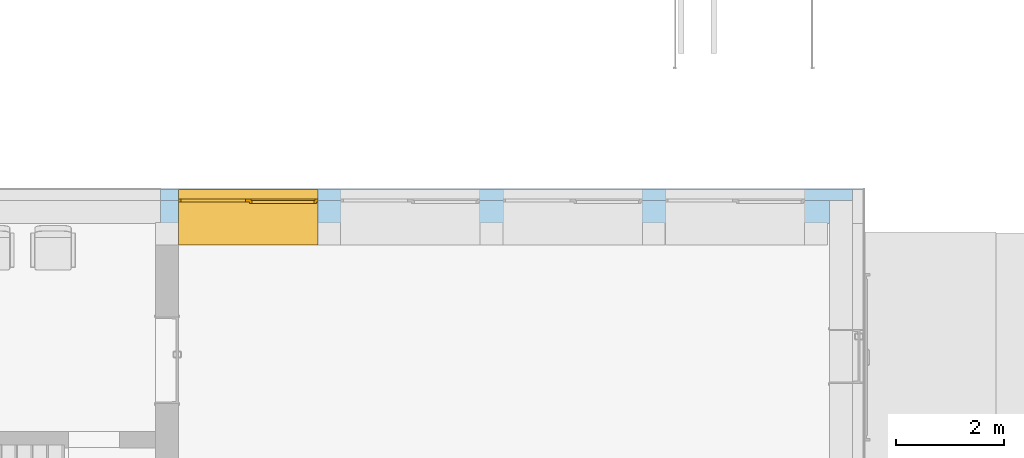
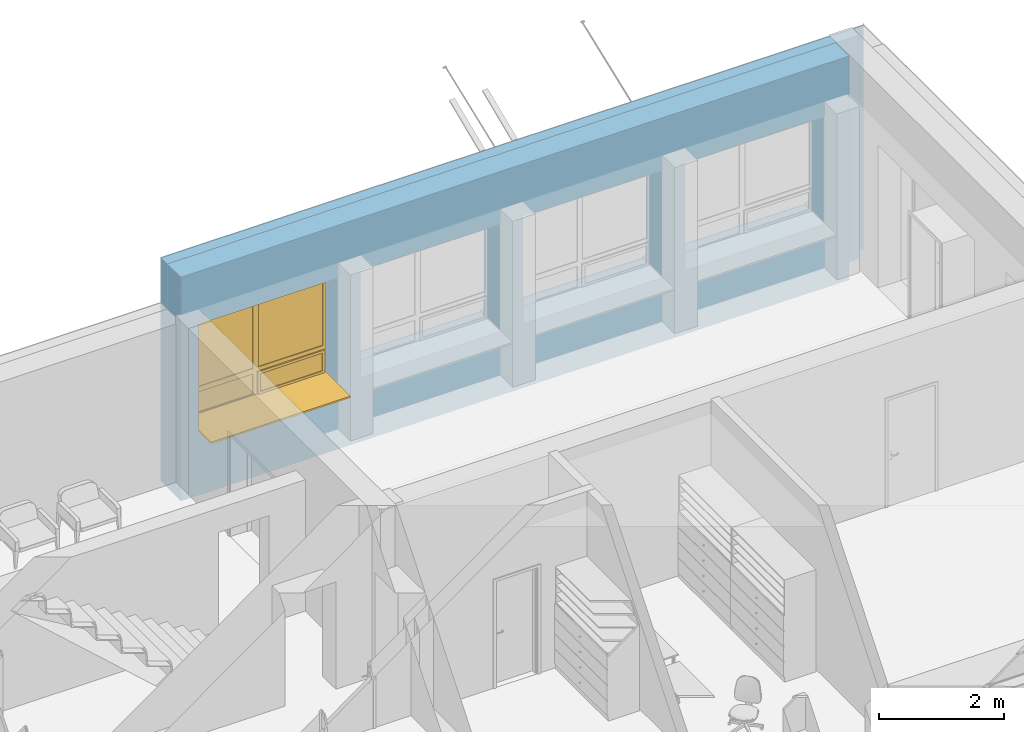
# One storey, part 102 of 194: 1 window, 4 openings, 1 element without a shape of its own, plus 3 elements that do not belong to this part.
"""IFC2X3 building model written with IfcOpenShell, lengths in millimetres."""

from ifc_helpers import new_model, entity, si_unit, converted_unit, derived_unit, money_unit, direction, frame, origin_with_axes, origin_2d_with_axis, place, context, subcontext, project, spatial, polyline, rectangle, outline, extrude, boolean, open_shell, faceted_brep, surface_model, material, type_object, element, fill, aggregate, save


model = new_model("IFC2X3")

# Units and contexts
model_context = context("Model", 3, precision=1e-05, world=origin_with_axes(), true_north=direction((0.0, 1.0)))
body_context = subcontext(model_context, "Body", "Model", "MODEL_VIEW")
ifc_project = project(units=[si_unit("LENGTHUNIT", "METRE", prefix="MILLI"), si_unit("AREAUNIT", "SQUARE_METRE"), si_unit("VOLUMEUNIT", "CUBIC_METRE"), converted_unit("PLANEANGLEUNIT", "DEGREE", entity("IfcPlaneAngleMeasure", 0.0174532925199), si_unit("PLANEANGLEUNIT", "RADIAN"), dimensions=[0, 0, 0, 0, 0, 0, 0]), si_unit("SOLIDANGLEUNIT", "STERADIAN"), money_unit("EUR"), converted_unit("TIMEUNIT", "Year", entity("IfcTimeMeasure", 31556926.0), si_unit("TIMEUNIT", "SECOND"), dimensions=[0, 0, 1, 0, 0, 0, 0]), si_unit("MASSUNIT", "GRAM", prefix="KILO"), si_unit("THERMODYNAMICTEMPERATUREUNIT", "DEGREE_CELSIUS"), si_unit("LUMINOUSINTENSITYUNIT", "LUMEN"), si_unit("ENERGYUNIT", "JOULE", prefix="MEGA"), derived_unit("THERMALCONDUCTANCEUNIT", [(si_unit("POWERUNIT", "WATT"), 1), (si_unit("LENGTHUNIT", "METRE"), -1), (si_unit("THERMODYNAMICTEMPERATUREUNIT", "KELVIN"), -1)]), derived_unit("SPECIFICHEATCAPACITYUNIT", [(si_unit("ENERGYUNIT", "JOULE"), 1), (si_unit("MASSUNIT", "GRAM", prefix="KILO"), -1), (si_unit("THERMODYNAMICTEMPERATUREUNIT", "KELVIN"), -1)]), derived_unit("MASSDENSITYUNIT", [(si_unit("MASSUNIT", "GRAM", prefix="KILO"), 1), (si_unit("VOLUMEUNIT", "CUBIC_METRE"), -1)])], contexts=[model_context])

# Site, building, storey
site_placement = place(None, origin_with_axes())
site = spatial("IfcSite", under=ifc_project, at=site_placement, Name="Site", CompositionType="ELEMENT")
building_placement = place(site_placement, origin_with_axes())
building = spatial("IfcBuilding", under=site, at=building_placement, Name="Building", CompositionType="ELEMENT")
storey_placement = place(building_placement, frame((0.0, 0.0, 3000.0), z_axis=(0.0, 0.0, 1.0), x_axis=(1.0, 0.0, 0.0)))
storey = spatial("IfcBuildingStorey", under=building, at=storey_placement, Name="2 KORRUS", CompositionType="ELEMENT", Elevation=3000.0)

# Window
window_style = type_object("IfcWindowStyle", Name="A2   2\xa0580×2\xa0100", ConstructionType="NOTDEFINED", OperationType="USERDEFINED", ParameterTakesPrecedence=False, Sizeable=False)
wall_placement = place(storey_placement, frame((87829.1670684, 47302.325893, -400.0), z_axis=(0.0, 0.0, 1.0), x_axis=(1.0, 0.0, 0.0)))
opening_4_placement = place(wall_placement, frame((1618.73994525, 0.0, 1250.0), z_axis=(0.0, 0.0, 1.0), x_axis=(1.0, 0.0, 0.0)))
window_placement = place(opening_4_placement, frame((1290.0, 0.0, 0.0), z_axis=(0.0, 0.0, 1.0), x_axis=(-1.0, 0.0, 0.0)))
window = element("IfcWindow", 1, at=window_placement, inside=storey, type_object=window_style, Name="välisaken * Double Window 22", OverallHeight=2100.0, OverallWidth=2580.0, context=body_context, shape_type="SurfaceModel", body=[
    faceted_brep([(2580.0, -219.999999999, 5.0), (2580.0, -19.9999999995, 5.0), (2580.0, -19.9999999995, 30.0), (2580.0, -219.999999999, 19.5184441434), (0.0, -19.9999999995, 5.0), (0.0, -219.999999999, 5.0), (0.0, -19.9999999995, 30.0), (0.0, -219.999999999, 19.5184441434)], [[[0, 1, 2, 3]], [[4, 1, 0, 5]], [[1, 4, 6, 2]], [[3, 2, 6, 7]], [[5, 0, 3, 7]], [[4, 5, 7, 6]]]),
    faceted_brep([(2580.0, -19.9999999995, 0.0), (2580.0, -19.9999999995, 5.0), (2580.0, -219.999999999, 5.0), (2580.0, -219.999999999, 0.0), (0.0, -19.9999999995, 0.0), (0.0, -19.9999999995, 5.0), (0.0, -219.999999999, 5.0), (0.0, -219.999999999, 0.0)], [[[0, 1, 2, 3]], [[4, 5, 1, 0]], [[1, 5, 6, 2]], [[3, 2, 6, 7]], [[0, 3, 7, 4]], [[7, 6, 5, 4]]]),
    faceted_brep([(0.0, 30.0000000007, 0.0), (0.0, 30.0000000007, 30.0), (0.0, 430.0, 30.0), (0.0, 430.0, 0.0), (2580.0, 30.0000000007, 0.0), (2580.0, 30.0000000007, 30.0), (2580.0, 430.0, 30.0), (2580.0, 830.000000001, 30.0), (0.0, 830.000000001, 30.0), (0.0, 830.000000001, 0.0), (2580.0, 830.000000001, 0.0), (2580.0, 430.0, 0.0)], [[[0, 1, 2, 3]], [[4, 5, 1, 0]], [[1, 5, 6, 7, 8, 2]], [[3, 2, 8, 9]], [[0, 3, 9, 10, 11, 4]], [[11, 6, 5, 4]], [[10, 7, 6, 11]], [[9, 8, 7, 10]]]),
    faceted_brep([(25.0, 30.0000000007, 475.0), (25.0, 30.0000000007, 50.0), (0.0, 30.0000000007, 50.0), (0.0, 30.0000000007, 2050.0), (50.0, 30.0000000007, 2050.0), (50.0, 30.0000000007, 550.0), (50.0, 30.0000000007, 475.0), (25.0, 5.00000000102, 475.0), (25.0, 5.00000000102, 50.0), (50.0, 5.00000000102, 50.0), (50.0, -19.9999999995, 50.0), (0.0, -19.9999999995, 50.0), (0.0, -19.9999999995, 2050.0), (50.0, -19.9999999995, 2050.0), (50.0, -19.9999999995, 550.0), (50.0, 5.00000000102, 475.0), (50.0, -19.9999999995, 450.0), (50.0, 5.00000000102, 450.0)], [[[0, 1, 2, 3, 4, 5, 6]], [[1, 0, 7, 8]], [[8, 9, 10, 11, 2, 1]], [[2, 11, 12, 3]], [[3, 12, 13, 4]], [[4, 13, 14, 5]], [[15, 6, 5, 14, 16, 17]], [[0, 6, 15, 7]], [[9, 8, 7, 15, 17]], [[9, 17, 16, 10]], [[11, 10, 16, 14, 13, 12]]]),
    faceted_brep([(1265.0, 30.0000000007, 50.0), (1265.0, 30.0000000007, 475.0), (1240.0, 30.0000000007, 475.0), (1240.0, 30.0000000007, 550.0), (1240.0, 30.0000000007, 2050.0), (1340.0, 30.0000000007, 2050.0), (1340.0, 30.0000000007, 550.0), (1340.0, 30.0000000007, 450.0), (1340.0, 30.0000000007, 50.0), (1265.0, 5.00000000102, 50.0), (1265.0, 5.00000000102, 475.0), (1240.0, 5.00000000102, 475.0), (1240.0, 5.00000000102, 450.0), (1240.0, -19.9999999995, 450.0), (1240.0, -19.9999999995, 550.0), (1240.0, -19.9999999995, 2050.0), (1340.0, -19.9999999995, 2050.0), (1340.0, -19.9999999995, 550.0), (1340.0, -19.9999999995, 450.0), (1340.0, -19.9999999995, 50.0), (1240.0, -19.9999999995, 50.0), (1240.0, 5.00000000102, 50.0)], [[[0, 1, 2, 3, 4, 5, 6, 7, 8]], [[1, 0, 9, 10]], [[11, 2, 1, 10]], [[11, 12, 13, 14, 3, 2]], [[3, 14, 15, 4]], [[4, 15, 16, 5]], [[5, 16, 17, 6]], [[6, 17, 18, 7]], [[7, 18, 19, 8]], [[9, 0, 8, 19, 20, 21]], [[12, 11, 10, 9, 21]], [[12, 21, 20, 13]], [[18, 17, 16, 15, 14, 13, 20, 19]]]),
    faceted_brep([(1240.0, 30.0000000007, 475.0), (50.0, 30.0000000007, 475.0), (50.0, 30.0000000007, 550.0), (1240.0, 30.0000000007, 550.0), (50.0, 5.00000000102, 475.0), (1240.0, 5.00000000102, 475.0), (50.0, 5.00000000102, 450.0), (50.0, -19.9999999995, 450.0), (50.0, -19.9999999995, 550.0), (1240.0, -19.9999999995, 550.0), (1240.0, -19.9999999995, 450.0), (1240.0, 5.00000000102, 450.0)], [[[0, 1, 2, 3]], [[4, 1, 0, 5]], [[4, 6, 7, 8, 2, 1]], [[2, 8, 9, 3]], [[5, 0, 3, 9, 10, 11]], [[6, 4, 5, 11]], [[6, 11, 10, 7]], [[10, 9, 8, 7]]]),
    faceted_brep([(50.0, 5.00000000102, 50.0), (25.0, 5.00000000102, 50.0), (25.0, 30.0000000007, 50.0), (0.0, 30.0000000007, 50.0), (0.0, -19.9999999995, 50.0), (50.0, -19.9999999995, 50.0), (1240.0, 5.00000000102, 50.0), (1265.0, 5.00000000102, 50.0), (1265.0, 5.00000000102, 25.0), (25.0, 5.00000000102, 25.0), (25.0, 30.0000000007, 25.0), (1265.0, 30.0000000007, 25.0), (1265.0, 30.0000000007, 50.0), (1340.0, 30.0000000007, 50.0), (2530.0, 30.0000000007, 50.0), (2580.0, 30.0000000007, 50.0), (2580.0, 30.0000000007, 0.0), (0.0, 30.0000000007, 0.0), (0.0, -19.9999999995, 0.0), (2580.0, -19.9999999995, 50.0), (2530.0, -19.9999999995, 50.0), (1340.0, -19.9999999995, 50.0), (1240.0, -19.9999999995, 50.0), (2580.0, -19.9999999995, 0.0)], [[[0, 1, 2, 3, 4, 5]], [[1, 0, 6, 7, 8, 9]], [[10, 2, 1, 9]], [[11, 12, 13, 14, 15, 16, 17, 3, 2, 10]], [[17, 18, 4, 3]], [[19, 20, 21, 22, 5, 4, 18, 23]], [[6, 0, 5, 22]], [[7, 6, 22, 21, 13, 12]], [[7, 12, 11, 8]], [[11, 10, 9, 8]], [[13, 21, 20, 14]], [[14, 20, 19, 15]], [[15, 19, 23, 16]], [[16, 23, 18, 17]]]),
    faceted_brep([(2530.0, -19.9999999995, 450.0), (2530.0, -19.9999999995, 550.0), (2530.0, 30.0000000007, 550.0), (2530.0, 30.0000000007, 450.0), (2530.0, -19.9999999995, 50.0), (2580.0, -19.9999999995, 50.0), (2580.0, -19.9999999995, 2050.0), (2530.0, -19.9999999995, 2050.0), (2530.0, 30.0000000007, 2050.0), (2580.0, 30.0000000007, 2050.0), (2580.0, 30.0000000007, 50.0), (2530.0, 30.0000000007, 50.0)], [[[0, 1, 2, 3]], [[0, 4, 5, 6, 7, 1]], [[1, 7, 8, 2]], [[3, 2, 8, 9, 10, 11]], [[4, 0, 3, 11]], [[5, 4, 11, 10]], [[6, 5, 10, 9]], [[7, 6, 9, 8]]]),
    faceted_brep([(1340.0, -19.9999999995, 450.0), (1340.0, -19.9999999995, 550.0), (1340.0, 30.0000000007, 550.0), (1340.0, 30.0000000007, 450.0), (2530.0, -19.9999999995, 450.0), (2530.0, -19.9999999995, 550.0), (2530.0, 30.0000000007, 550.0), (2530.0, 30.0000000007, 450.0)], [[[0, 1, 2, 3]], [[0, 4, 5, 1]], [[1, 5, 6, 2]], [[3, 2, 6, 7]], [[4, 0, 3, 7]], [[5, 4, 7, 6]]]),
    faceted_brep([(1340.0, -19.9999999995, 2050.0), (1240.0, -19.9999999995, 2050.0), (1240.0, 30.0000000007, 2050.0), (1340.0, 30.0000000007, 2050.0), (2530.0, -19.9999999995, 2050.0), (2580.0, -19.9999999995, 2050.0), (2580.0, -19.9999999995, 2100.0), (0.0, -19.9999999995, 2100.0), (0.0, -19.9999999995, 2050.0), (50.0, -19.9999999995, 2050.0), (50.0, 30.0000000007, 2050.0), (0.0, 30.0000000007, 2050.0), (0.0, 30.0000000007, 2100.0), (2580.0, 30.0000000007, 2100.0), (2580.0, 30.0000000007, 2050.0), (2530.0, 30.0000000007, 2050.0)], [[[0, 1, 2, 3]], [[0, 4, 5, 6, 7, 8, 9, 1]], [[1, 9, 10, 2]], [[3, 2, 10, 11, 12, 13, 14, 15]], [[4, 0, 3, 15]], [[5, 4, 15, 14]], [[6, 5, 14, 13]], [[7, 6, 13, 12]], [[8, 7, 12, 11]], [[9, 8, 11, 10]]]),
    surface_model("IfcShellBasedSurfaceModel", [(2530.0, -4.9999999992, 550.0), (2530.0, -4.9999999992, 2050.0), (1340.0, -4.9999999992, 2050.0), (1340.0, -4.9999999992, 550.0)], [open_shell([[[0, 1, 2, 3]]])]),
    surface_model("IfcShellBasedSurfaceModel", [(2530.0, 15.0000000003, 550.0), (1340.0, 15.0000000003, 550.0), (1340.0, 15.0000000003, 2050.0), (2530.0, 15.0000000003, 2050.0)], [open_shell([[[0, 1, 2, 3]]])]),
    surface_model("IfcShellBasedSurfaceModel", [(1240.0, -4.9999999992, 550.0), (1240.0, -4.9999999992, 2050.0), (50.0, -4.9999999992, 2050.0), (50.0, -4.9999999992, 550.0)], [open_shell([[[0, 1, 2, 3]]])]),
    surface_model("IfcShellBasedSurfaceModel", [(1240.0, 15.0000000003, 550.0), (50.0, 15.0000000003, 550.0), (50.0, 15.0000000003, 2050.0), (1240.0, 15.0000000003, 2050.0)], [open_shell([[[0, 1, 2, 3]]])]),
    surface_model("IfcShellBasedSurfaceModel", [(2530.0, -4.9999999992, 50.0), (2530.0, -4.9999999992, 450.0), (1340.0, -4.9999999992, 450.0), (1340.0, -4.9999999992, 50.0)], [open_shell([[[0, 1, 2, 3]]])]),
    surface_model("IfcShellBasedSurfaceModel", [(2530.0, 15.0000000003, 50.0), (1340.0, 15.0000000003, 50.0), (1340.0, 15.0000000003, 450.0), (2530.0, 15.0000000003, 450.0)], [open_shell([[[0, 1, 2, 3]]])]),
    faceted_brep([(1215.0, 5.00000000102, 425.0), (1265.0, 5.00000000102, 425.0), (1265.0, 55.0000000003, 425.0), (1215.0, 55.0000000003, 425.0), (1215.0, 5.00000000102, 75.0), (1265.0, 5.00000000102, 75.0), (1265.0, 55.0000000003, 75.0), (1215.0, 55.0000000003, 75.0)], [[[0, 1, 2, 3]], [[0, 4, 5, 1]], [[1, 5, 6, 2]], [[3, 2, 6, 7]], [[4, 0, 3, 7]], [[5, 4, 7, 6]]]),
    faceted_brep([(74.9999999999, 5.00000000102, 75.0), (25.0, 5.00000000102, 75.0), (25.0, 55.0000000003, 75.0), (74.9999999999, 55.0000000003, 75.0), (74.9999999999, 5.00000000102, 425.0), (25.0, 5.00000000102, 425.0), (25.0, 55.0000000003, 425.0), (74.9999999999, 55.0000000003, 425.0)], [[[0, 1, 2, 3]], [[0, 4, 5, 1]], [[1, 5, 6, 2]], [[3, 2, 6, 7]], [[4, 0, 3, 7]], [[5, 4, 7, 6]]]),
    faceted_brep([(25.0, 5.00000000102, 25.0), (25.0, 5.00000000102, 75.0), (25.0, 55.0000000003, 75.0), (25.0, 55.0000000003, 25.0), (1265.0, 5.00000000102, 25.0), (1265.0, 5.00000000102, 75.0), (1215.0, 5.00000000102, 75.0), (74.9999999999, 5.00000000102, 75.0), (74.9999999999, 55.0000000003, 75.0), (1215.0, 55.0000000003, 75.0), (1265.0, 55.0000000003, 75.0), (1265.0, 55.0000000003, 25.0)], [[[0, 1, 2, 3]], [[0, 4, 5, 6, 7, 1]], [[1, 7, 8, 2]], [[3, 2, 8, 9, 10, 11]], [[4, 0, 3, 11]], [[5, 4, 11, 10]], [[6, 5, 10, 9]], [[7, 6, 9, 8]]]),
    faceted_brep([(1265.0, 5.00000000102, 475.0), (1265.0, 5.00000000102, 425.0), (1265.0, 55.0000000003, 425.0), (1265.0, 55.0000000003, 475.0), (25.0, 5.00000000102, 475.0), (25.0, 5.00000000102, 425.0), (74.9999999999, 5.00000000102, 425.0), (1215.0, 5.00000000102, 425.0), (1215.0, 55.0000000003, 425.0), (74.9999999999, 55.0000000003, 425.0), (25.0, 55.0000000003, 425.0), (25.0, 55.0000000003, 475.0)], [[[0, 1, 2, 3]], [[0, 4, 5, 6, 7, 1]], [[1, 7, 8, 2]], [[3, 2, 8, 9, 10, 11]], [[4, 0, 3, 11]], [[5, 4, 11, 10]], [[6, 5, 10, 9]], [[7, 6, 9, 8]]]),
    surface_model("IfcShellBasedSurfaceModel", [(1215.0, 20.0000000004, 75.0), (1215.0, 20.0000000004, 425.0), (74.9999999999, 20.0000000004, 425.0), (74.9999999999, 20.0000000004, 75.0)], [open_shell([[[0, 1, 2, 3]]])]),
    surface_model("IfcShellBasedSurfaceModel", [(1215.0, 40.0000000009, 75.0), (74.9999999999, 40.0000000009, 75.0), (74.9999999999, 40.0000000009, 425.0), (1215.0, 40.0000000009, 425.0)], [open_shell([[[0, 1, 2, 3]]])]),
])

# Wall, openings
wall_type = type_object("IfcWallType", Name="VS4", PredefinedType="NOTDEFINED")
wall = element("IfcWall", 2, at=wall_placement, inside=storey, type_object=wall_type, Name="VS4")
opening_1_placement = place(wall_placement, frame((4618.18571631, 0.0, 1250.0), z_axis=(0.0, 0.0, 1.0), x_axis=(1.0, 0.0, 0.0)))
element("IfcOpeningElement", 3, at=opening_1_placement, cuts=wall, Name="välisaken * Double Window 22", context=body_context, shape_type="SweptSolid", body=[
    extrude(rectangle(XDim=2580.0, YDim=2100.0, at=origin_2d_with_axis()), frame((0.0, 19.9999999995, 1050.0), z_axis=(0.0, -1.0, 0.0), x_axis=(1.0, 0.0, 0.0)), (0.0, 0.0, 1.0), 1100.0),
    extrude(rectangle(XDim=2580.0, YDim=2100.0, at=origin_2d_with_axis()), frame((0.0, 19.9999999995, 1050.0), z_axis=(0.0, 1.0, 0.0), x_axis=(1.0, 0.0, 0.0)), (0.0, 0.0, 1.0), 850.0),
])
opening_2_placement = place(wall_placement, frame((7618.18571631, 0.0, 1250.0), z_axis=(0.0, 0.0, 1.0), x_axis=(1.0, 0.0, 0.0)))
element("IfcOpeningElement", 4, at=opening_2_placement, cuts=wall, Name="välisaken * Double Window 22", context=body_context, shape_type="SweptSolid", body=[
    extrude(rectangle(XDim=2580.0, YDim=2100.0, at=origin_2d_with_axis()), frame((0.0, 19.9999999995, 1050.0), z_axis=(0.0, -1.0, 0.0), x_axis=(1.0, 0.0, 0.0)), (0.0, 0.0, 1.0), 1100.0),
    extrude(rectangle(XDim=2580.0, YDim=2100.0, at=origin_2d_with_axis()), frame((0.0, 19.9999999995, 1050.0), z_axis=(0.0, 1.0, 0.0), x_axis=(1.0, 0.0, 0.0)), (0.0, 0.0, 1.0), 850.0),
])
opening_3_placement = place(wall_placement, frame((10622.6003401, 0.0, 1250.0), z_axis=(0.0, 0.0, 1.0), x_axis=(1.0, 0.0, 0.0)))
element("IfcOpeningElement", 5, at=opening_3_placement, cuts=wall, Name="välisaken * Double Window 22", context=body_context, shape_type="SweptSolid", body=[
    extrude(rectangle(XDim=2580.0, YDim=2100.0, at=origin_2d_with_axis()), frame((0.0, 19.9999999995, 1050.0), z_axis=(0.0, -1.0, 0.0), x_axis=(1.0, 0.0, 0.0)), (0.0, 0.0, 1.0), 1100.0),
    extrude(rectangle(XDim=2580.0, YDim=2100.0, at=origin_2d_with_axis()), frame((0.0, 19.9999999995, 1050.0), z_axis=(0.0, 1.0, 0.0), x_axis=(1.0, 0.0, 0.0)), (0.0, 0.0, 1.0), 850.0),
])
opening_4 = element("IfcOpeningElement", 6, at=opening_4_placement, cuts=wall, Name="välisaken * Double Window 22", context=body_context, shape_type="SweptSolid", body=[
    extrude(rectangle(XDim=2580.0, YDim=2100.0, at=origin_2d_with_axis()), frame((0.0, 19.9999999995, 1050.0), z_axis=(0.0, -1.0, 0.0), x_axis=(1.0, 0.0, 0.0)), (0.0, 0.0, 1.0), 1100.0),
    extrude(rectangle(XDim=2580.0, YDim=2100.0, at=origin_2d_with_axis()), frame((0.0, 19.9999999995, 1050.0), z_axis=(0.0, 1.0, 0.0), x_axis=(1.0, 0.0, 0.0)), (0.0, 0.0, 1.0), 850.0),
])

fill(opening_4, window)

# Building element part
ifc_material_1 = material(Name="Tellis - Konstuktsioon")
building_element_part_1_placement = place(wall_placement, origin_with_axes())
building_element_part_1 = element("IfcBuildingElementPart", 7, at=building_element_part_1_placement, material=ifc_material_1, Name="Tellis - Konstuktsioon", context=body_context, shape_type="CSG", body=[
    boolean("DIFFERENCE", boolean("DIFFERENCE", boolean("DIFFERENCE", boolean("DIFFERENCE", boolean("DIFFERENCE", boolean("DIFFERENCE", boolean("DIFFERENCE", extrude(outline(polyline([(0.0, -430.0), (13016.0388703, -430.0), (13016.0388703, 0.0), (0.0, 0.0), (0.0, -430.0)])), origin_with_axes(), (0.0, 0.0, 1.0), 4380.0), faceted_brep([(0.0, -430.0, 4010.11334593), (15.916542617, -430.0, 4010.11334593), (15.916542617, -430.0, 4012.73673389), (15.6607950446, -430.0, 4014.34624258), (14.9324875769, -430.0, 4015.71071817), (13.8424984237, -430.0, 4016.6224316), (13.0257764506, -430.0, 4016.90140389), (0.0, -430.0, 4019.18424271), (0.0, -354.519551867, 3985.58826165), (15.916542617, -354.519551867, 3985.58826165), (15.916542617, -354.519551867, 3988.21164961), (15.6607950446, -354.519551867, 3989.82115831), (14.9324875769, -354.519551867, 3991.18563389), (13.8424984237, -354.519551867, 3992.09734733), (13.0257764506, -354.519551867, 3992.37631961), (0.0, -354.519551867, 3994.65915843)], [[[0, 1, 2, 3, 4, 5, 6, 7]], [[1, 0, 8, 9]], [[2, 1, 9, 10]], [[3, 2, 10, 11]], [[4, 3, 11, 12]], [[5, 4, 12, 13]], [[6, 5, 13, 14]], [[7, 6, 14, 15]], [[8, 0, 7, 15]], [[8, 15, 14, 13, 12, 11, 10, 9]]])), faceted_brep([(15.6607950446, -430.0, 4132.05614005), (15.916542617, -430.0, 4133.66564874), (15.916542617, -430.0, 4136.28903671), (0.0, -430.0, 4136.28903671), (0.0, -430.0, 4127.21813993), (13.0257764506, -430.0, 4129.50097875), (13.8424984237, -430.0, 4129.77995103), (14.9324875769, -430.0, 4130.69166447), (15.6607950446, -354.519551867, 4107.53105577), (15.916542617, -354.519551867, 4109.14056446), (15.916542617, -354.519551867, 4111.76395243), (0.0, -354.519551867, 4111.76395243), (0.0, -354.519551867, 4102.69305565), (13.0257764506, -354.519551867, 4104.97589447), (13.8424984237, -354.519551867, 4105.25486675), (14.9324875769, -354.519551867, 4106.16658019)], [[[0, 1, 2, 3, 4, 5, 6, 7]], [[1, 0, 8, 9]], [[2, 1, 9, 10]], [[3, 2, 10, 11]], [[12, 4, 3, 11]], [[5, 4, 12, 13]], [[6, 5, 13, 14]], [[7, 6, 14, 15]], [[0, 7, 15, 8]], [[12, 11, 10, 9, 8, 15, 14, 13]]])), faceted_brep([(12365.9726529, 0.0, 4380.0), (12366.0388626, -430.0, 4380.0), (13016.0388703, -430.0, 4380.0), (13016.0388703, 0.0, 4380.0), (12366.0388626, -430.0, 0.0), (12365.9726529, 0.0, 0.0), (13016.0388703, -430.0, 0.0), (13016.0388703, 0.0, 0.0)], [[[0, 1, 2, 3]], [[4, 1, 0, 5]], [[1, 4, 6, 2]], [[2, 6, 7, 3]], [[5, 0, 3, 7]], [[4, 5, 7, 6]]])), faceted_brep([(124.191637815, 200.0, 1280.0), (124.191637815, 200.0, 3380.0), (12406.3440914, 200.0, 3380.0), (12406.3440914, 200.0, 1280.0), (124.191637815, 90.86534167, 1280.0), (124.191637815, 90.86534167, 3380.0), (12406.3440914, 90.8653416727, 3380.0), (12406.3440914, 90.8653416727, 1280.0)], [[[0, 1, 2, 3]], [[1, 0, 4, 5]], [[2, 1, 5, 6]], [[3, 2, 6, 7]], [[0, 3, 7, 4]], [[4, 7, 6, 5]]])), faceted_brep([(12795.9418628, 200.0, 4380.0), (12795.972658, 0.0, 4380.0), (13016.0388703, 0.0, 4380.0), (13016.0388703, 200.0, 4380.0), (12795.972658, 0.0, 0.0), (12795.9418628, 200.0, 0.0), (13016.0388703, 0.0, 0.0), (13016.0388703, 200.0, 0.0)], [[[0, 1, 2, 3]], [[4, 1, 0, 5]], [[1, 4, 6, 2]], [[2, 6, 7, 3]], [[5, 0, 3, 7]], [[4, 5, 7, 6]]])), faceted_brep([(124.191637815, 200.0, 1280.0), (12406.3440914, 200.0, 1280.0), (12406.3440914, 200.0, 3380.0), (124.191637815, 200.0, 3380.0), (124.191637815, 220.0, 1280.0), (12406.3440914, 220.0, 1280.0), (12406.3440914, 220.0, 3380.0), (124.191637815, 220.0, 3380.0)], [[[0, 1, 2, 3]], [[4, 5, 1, 0]], [[5, 6, 2, 1]], [[6, 7, 3, 2]], [[7, 4, 0, 3]], [[4, 7, 6, 5]]])), faceted_brep([(12995.9387857, 220.0, 0.0), (12995.9387857, 220.0, 4380.0), (13016.0388703, 220.0, 4380.0), (13016.0388703, 220.0, 0.0), (12995.9418652, 200.0, 4380.0), (12995.9418652, 200.0, 0.0), (13016.0388703, 200.0, 4380.0), (13016.0388703, 200.0, 0.0)], [[[0, 1, 2, 3]], [[4, 1, 0, 5]], [[1, 4, 6, 2]], [[6, 7, 3, 2]], [[5, 0, 3, 7]], [[4, 5, 7, 6]]])),
])

ifc_material_2 = material(Name="Soojustus - Plastik Kõva")
building_element_part_2_placement = place(wall_placement, origin_with_axes())
building_element_part_2 = element("IfcBuildingElementPart", 8, at=building_element_part_2_placement, material=ifc_material_2, Name="Soojustus - Plastik Kõva", context=body_context, shape_type="CSG", body=[
    boolean("DIFFERENCE", boolean("DIFFERENCE", boolean("DIFFERENCE", boolean("DIFFERENCE", boolean("DIFFERENCE", boolean("DIFFERENCE", boolean("DIFFERENCE", extrude(outline(polyline([(0.0, 0.0), (13016.0388703, 0.0), (13016.0388703, 200.0), (0.0, 200.0), (0.0, 0.0)])), origin_with_axes(), (0.0, 0.0, 1.0), 4380.0), faceted_brep([(0.0, -430.0, 4010.11334593), (15.916542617, -430.0, 4010.11334593), (15.916542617, -430.0, 4012.73673389), (15.6607950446, -430.0, 4014.34624258), (14.9324875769, -430.0, 4015.71071817), (13.8424984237, -430.0, 4016.6224316), (13.0257764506, -430.0, 4016.90140389), (0.0, -430.0, 4019.18424271), (0.0, -354.519551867, 3985.58826165), (15.916542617, -354.519551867, 3985.58826165), (15.916542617, -354.519551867, 3988.21164961), (15.6607950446, -354.519551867, 3989.82115831), (14.9324875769, -354.519551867, 3991.18563389), (13.8424984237, -354.519551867, 3992.09734733), (13.0257764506, -354.519551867, 3992.37631961), (0.0, -354.519551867, 3994.65915843)], [[[0, 1, 2, 3, 4, 5, 6, 7]], [[1, 0, 8, 9]], [[2, 1, 9, 10]], [[3, 2, 10, 11]], [[4, 3, 11, 12]], [[5, 4, 12, 13]], [[6, 5, 13, 14]], [[7, 6, 14, 15]], [[8, 0, 7, 15]], [[8, 15, 14, 13, 12, 11, 10, 9]]])), faceted_brep([(15.6607950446, -430.0, 4132.05614005), (15.916542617, -430.0, 4133.66564874), (15.916542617, -430.0, 4136.28903671), (0.0, -430.0, 4136.28903671), (0.0, -430.0, 4127.21813993), (13.0257764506, -430.0, 4129.50097875), (13.8424984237, -430.0, 4129.77995103), (14.9324875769, -430.0, 4130.69166447), (15.6607950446, -354.519551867, 4107.53105577), (15.916542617, -354.519551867, 4109.14056446), (15.916542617, -354.519551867, 4111.76395243), (0.0, -354.519551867, 4111.76395243), (0.0, -354.519551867, 4102.69305565), (13.0257764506, -354.519551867, 4104.97589447), (13.8424984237, -354.519551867, 4105.25486675), (14.9324875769, -354.519551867, 4106.16658019)], [[[0, 1, 2, 3, 4, 5, 6, 7]], [[1, 0, 8, 9]], [[2, 1, 9, 10]], [[3, 2, 10, 11]], [[12, 4, 3, 11]], [[5, 4, 12, 13]], [[6, 5, 13, 14]], [[7, 6, 14, 15]], [[0, 7, 15, 8]], [[12, 11, 10, 9, 8, 15, 14, 13]]])), faceted_brep([(12365.9726529, 0.0, 4380.0), (12366.0388626, -430.0, 4380.0), (13016.0388703, -430.0, 4380.0), (13016.0388703, 0.0, 4380.0), (12366.0388626, -430.0, 0.0), (12365.9726529, 0.0, 0.0), (13016.0388703, -430.0, 0.0), (13016.0388703, 0.0, 0.0)], [[[0, 1, 2, 3]], [[4, 1, 0, 5]], [[1, 4, 6, 2]], [[2, 6, 7, 3]], [[5, 0, 3, 7]], [[4, 5, 7, 6]]])), faceted_brep([(124.191637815, 200.0, 1280.0), (124.191637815, 200.0, 3380.0), (12406.3440914, 200.0, 3380.0), (12406.3440914, 200.0, 1280.0), (124.191637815, 90.86534167, 1280.0), (124.191637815, 90.86534167, 3380.0), (12406.3440914, 90.8653416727, 3380.0), (12406.3440914, 90.8653416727, 1280.0)], [[[0, 1, 2, 3]], [[1, 0, 4, 5]], [[2, 1, 5, 6]], [[3, 2, 6, 7]], [[0, 3, 7, 4]], [[4, 7, 6, 5]]])), faceted_brep([(12795.9418628, 200.0, 4380.0), (12795.972658, 0.0, 4380.0), (13016.0388703, 0.0, 4380.0), (13016.0388703, 200.0, 4380.0), (12795.972658, 0.0, 0.0), (12795.9418628, 200.0, 0.0), (13016.0388703, 0.0, 0.0), (13016.0388703, 200.0, 0.0)], [[[0, 1, 2, 3]], [[4, 1, 0, 5]], [[1, 4, 6, 2]], [[2, 6, 7, 3]], [[5, 0, 3, 7]], [[4, 5, 7, 6]]])), faceted_brep([(124.191637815, 200.0, 1280.0), (12406.3440914, 200.0, 1280.0), (12406.3440914, 200.0, 3380.0), (124.191637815, 200.0, 3380.0), (124.191637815, 220.0, 1280.0), (12406.3440914, 220.0, 1280.0), (12406.3440914, 220.0, 3380.0), (124.191637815, 220.0, 3380.0)], [[[0, 1, 2, 3]], [[4, 5, 1, 0]], [[5, 6, 2, 1]], [[6, 7, 3, 2]], [[7, 4, 0, 3]], [[4, 7, 6, 5]]])), faceted_brep([(12995.9387857, 220.0, 0.0), (12995.9387857, 220.0, 4380.0), (13016.0388703, 220.0, 4380.0), (13016.0388703, 220.0, 0.0), (12995.9418652, 200.0, 4380.0), (12995.9418652, 200.0, 0.0), (13016.0388703, 200.0, 4380.0), (13016.0388703, 200.0, 0.0)], [[[0, 1, 2, 3]], [[4, 1, 0, 5]], [[1, 4, 6, 2]], [[6, 7, 3, 2]], [[5, 0, 3, 7]], [[4, 5, 7, 6]]])),
])

ifc_material_3 = material(Name="Tellis - Viimistlus")
building_element_part_3_placement = place(wall_placement, origin_with_axes())
building_element_part_3 = element("IfcBuildingElementPart", 9, at=building_element_part_3_placement, material=ifc_material_3, Name="Tellis - Viimistlus", context=body_context, shape_type="CSG", body=[
    boolean("DIFFERENCE", boolean("DIFFERENCE", boolean("DIFFERENCE", boolean("DIFFERENCE", boolean("DIFFERENCE", boolean("DIFFERENCE", boolean("DIFFERENCE", extrude(outline(polyline([(0.0, 200.0), (13016.0388703, 200.0), (13016.0388703, 220.0), (0.0, 220.0), (0.0, 200.0)])), origin_with_axes(), (0.0, 0.0, 1.0), 4380.0), faceted_brep([(0.0, -430.0, 4010.11334593), (15.916542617, -430.0, 4010.11334593), (15.916542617, -430.0, 4012.73673389), (15.6607950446, -430.0, 4014.34624258), (14.9324875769, -430.0, 4015.71071817), (13.8424984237, -430.0, 4016.6224316), (13.0257764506, -430.0, 4016.90140389), (0.0, -430.0, 4019.18424271), (0.0, -354.519551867, 3985.58826165), (15.916542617, -354.519551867, 3985.58826165), (15.916542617, -354.519551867, 3988.21164961), (15.6607950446, -354.519551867, 3989.82115831), (14.9324875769, -354.519551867, 3991.18563389), (13.8424984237, -354.519551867, 3992.09734733), (13.0257764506, -354.519551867, 3992.37631961), (0.0, -354.519551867, 3994.65915843)], [[[0, 1, 2, 3, 4, 5, 6, 7]], [[1, 0, 8, 9]], [[2, 1, 9, 10]], [[3, 2, 10, 11]], [[4, 3, 11, 12]], [[5, 4, 12, 13]], [[6, 5, 13, 14]], [[7, 6, 14, 15]], [[8, 0, 7, 15]], [[8, 15, 14, 13, 12, 11, 10, 9]]])), faceted_brep([(15.6607950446, -430.0, 4132.05614005), (15.916542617, -430.0, 4133.66564874), (15.916542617, -430.0, 4136.28903671), (0.0, -430.0, 4136.28903671), (0.0, -430.0, 4127.21813993), (13.0257764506, -430.0, 4129.50097875), (13.8424984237, -430.0, 4129.77995103), (14.9324875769, -430.0, 4130.69166447), (15.6607950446, -354.519551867, 4107.53105577), (15.916542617, -354.519551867, 4109.14056446), (15.916542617, -354.519551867, 4111.76395243), (0.0, -354.519551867, 4111.76395243), (0.0, -354.519551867, 4102.69305565), (13.0257764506, -354.519551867, 4104.97589447), (13.8424984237, -354.519551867, 4105.25486675), (14.9324875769, -354.519551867, 4106.16658019)], [[[0, 1, 2, 3, 4, 5, 6, 7]], [[1, 0, 8, 9]], [[2, 1, 9, 10]], [[3, 2, 10, 11]], [[12, 4, 3, 11]], [[5, 4, 12, 13]], [[6, 5, 13, 14]], [[7, 6, 14, 15]], [[0, 7, 15, 8]], [[12, 11, 10, 9, 8, 15, 14, 13]]])), faceted_brep([(12365.9726529, 0.0, 4380.0), (12366.0388626, -430.0, 4380.0), (13016.0388703, -430.0, 4380.0), (13016.0388703, 0.0, 4380.0), (12366.0388626, -430.0, 0.0), (12365.9726529, 0.0, 0.0), (13016.0388703, -430.0, 0.0), (13016.0388703, 0.0, 0.0)], [[[0, 1, 2, 3]], [[4, 1, 0, 5]], [[1, 4, 6, 2]], [[2, 6, 7, 3]], [[5, 0, 3, 7]], [[4, 5, 7, 6]]])), faceted_brep([(124.191637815, 200.0, 1280.0), (124.191637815, 200.0, 3380.0), (12406.3440914, 200.0, 3380.0), (12406.3440914, 200.0, 1280.0), (124.191637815, 90.86534167, 1280.0), (124.191637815, 90.86534167, 3380.0), (12406.3440914, 90.8653416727, 3380.0), (12406.3440914, 90.8653416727, 1280.0)], [[[0, 1, 2, 3]], [[1, 0, 4, 5]], [[2, 1, 5, 6]], [[3, 2, 6, 7]], [[0, 3, 7, 4]], [[4, 7, 6, 5]]])), faceted_brep([(12795.9418628, 200.0, 4380.0), (12795.972658, 0.0, 4380.0), (13016.0388703, 0.0, 4380.0), (13016.0388703, 200.0, 4380.0), (12795.972658, 0.0, 0.0), (12795.9418628, 200.0, 0.0), (13016.0388703, 0.0, 0.0), (13016.0388703, 200.0, 0.0)], [[[0, 1, 2, 3]], [[4, 1, 0, 5]], [[1, 4, 6, 2]], [[2, 6, 7, 3]], [[5, 0, 3, 7]], [[4, 5, 7, 6]]])), faceted_brep([(124.191637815, 200.0, 1280.0), (12406.3440914, 200.0, 1280.0), (12406.3440914, 200.0, 3380.0), (124.191637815, 200.0, 3380.0), (124.191637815, 220.0, 1280.0), (12406.3440914, 220.0, 1280.0), (12406.3440914, 220.0, 3380.0), (124.191637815, 220.0, 3380.0)], [[[0, 1, 2, 3]], [[4, 5, 1, 0]], [[5, 6, 2, 1]], [[6, 7, 3, 2]], [[7, 4, 0, 3]], [[4, 7, 6, 5]]])), faceted_brep([(12995.9387857, 220.0, 0.0), (12995.9387857, 220.0, 4380.0), (13016.0388703, 220.0, 4380.0), (13016.0388703, 220.0, 0.0), (12995.9418652, 200.0, 4380.0), (12995.9418652, 200.0, 0.0), (13016.0388703, 200.0, 4380.0), (13016.0388703, 200.0, 0.0)], [[[0, 1, 2, 3]], [[4, 1, 0, 5]], [[1, 4, 6, 2]], [[6, 7, 3, 2]], [[5, 0, 3, 7]], [[4, 5, 7, 6]]])),
])

aggregate(wall, [building_element_part_1, building_element_part_2, building_element_part_3])

save(model, "model.ifc")
